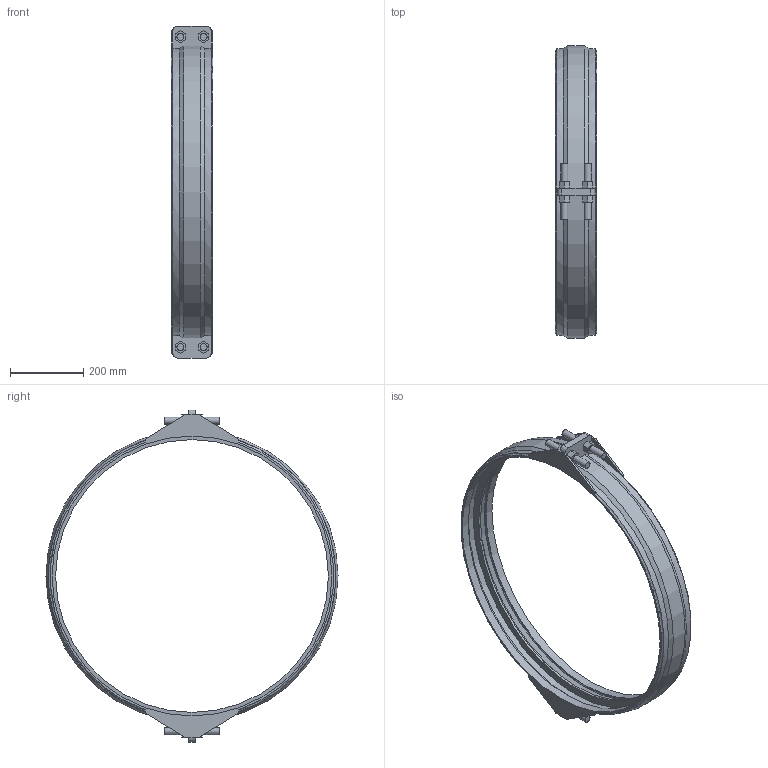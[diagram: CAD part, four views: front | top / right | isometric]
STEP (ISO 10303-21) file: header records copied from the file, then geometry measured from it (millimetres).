
FILE_DESCRIPTION(/* description */ ('VIC SS RESTRAINED COUPLING STYLE 234S (FLEX) (BRS)','CAx-IF Rec.Pracs.---Representation and Presentation of Product Manufacturing Information (PMI)---4.0---2014-10-13'),/* implementation_level */ '2;1');
FILE_NAME(/* name */ 'C:\Users\kkamble\AppData\Roaming\Autodesk\ApplicationPlugins\Back Up\Victaulic_VBSP_Coupling Flexible Restrained_Style 234S (BRS)\Victaulic_VBSP_Coupling Flexible Restrained_Style 234S (BRS)_100psi_30 (750).stp',/* time_stamp */ '2020-09-22T18:41:19+05:00',/* author */ ('Vjadhav'),/* organization */ ('Victaulic'),/* preprocessor_version */ 'ST-DEVELOPER v17.2',/* originating_system */ 'Autodesk Inventor 2019',/* authorisation */ '');
FILE_SCHEMA (('AP242_MANAGED_MODEL_BASED_3D_ENGINEERING_MIM_LF { 1 0 10303 442 1 1 4 }'));
Length unit declared in the file: inch
Products named in the file (1): Style_234S_Type_2_100psi-30.0
Bounding box: 114.3 x 795.52 x 904.24 mm (x, y, z)
Volume: 2814910.1 mm3; surface area: 857629.3 mm2
Topology: 1 solids, 1 shells, 155 faces, 393 edges, 260 vertices
Faces by surface type: plane 104, cylinder 39, torus 6, cone 6
Full cylindrical faces by diameter (mm): 19.05 x8, 742.95 x1, 762 x2, 785.993 x2
Entity records: 5090 total; most frequent: CARTESIAN_POINT 978, DIRECTION 825, ORIENTED_EDGE 786, EDGE_CURVE 393, AXIS2_PLACEMENT_3D 279, LINE 267, VECTOR 267, VERTEX_POINT 260
